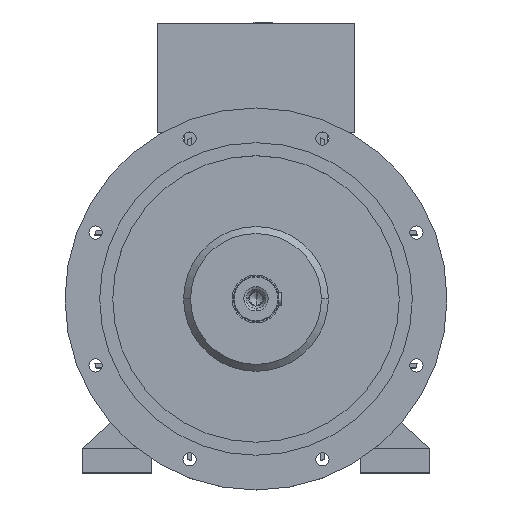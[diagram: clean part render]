
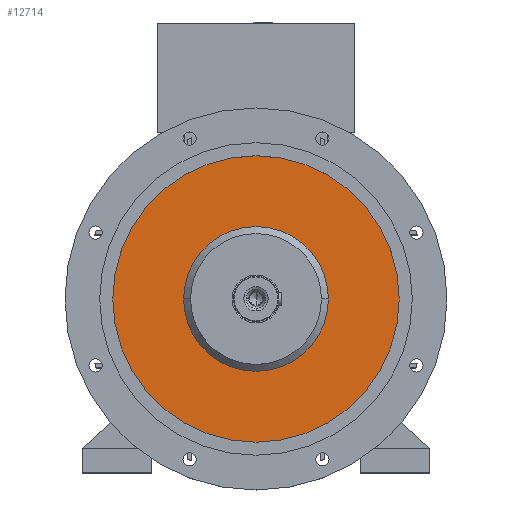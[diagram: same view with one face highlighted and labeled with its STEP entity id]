
A CAD part, top view. The second image highlights one B-rep face of the part: STEP entity #12714.
In plain terms, the highlighted planar face has unit normal (0, 0, 1).
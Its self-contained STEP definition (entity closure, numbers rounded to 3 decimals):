
#844 = CARTESIAN_POINT ( 'NONE',  ( 206.25, 0., 330.5 ) ) ;
#1526 = CARTESIAN_POINT ( 'NONE',  ( 0., 206.25, 330.5 ) ) ;
#2258 = VERTEX_POINT ( 'NONE', #9600 ) ;
#3764 = EDGE_CURVE ( 'NONE', #7970, #3894, #8996, .T. ) ;
#3894 = VERTEX_POINT ( 'NONE', #26335 ) ;
#4556 = EDGE_CURVE ( 'NONE', #2258, #22303, #8298, .T. ) ;
#4691 = AXIS2_PLACEMENT_3D ( 'NONE', #22615, #20337, #26622 ) ;
#6177 = EDGE_LOOP ( 'NONE', ( #11340, #23933 ) ) ;
#6793 = CARTESIAN_POINT ( 'NONE',  ( -104.2, 0., 330.5 ) ) ;
#7970 = VERTEX_POINT ( 'NONE', #844 ) ;
#8048 = DIRECTION ( 'NONE',  ( -1., 0., 0. ) ) ;
#8298 = CIRCLE ( 'NONE', #12578, 104.2 ) ;
#8996 = CIRCLE ( 'NONE', #24302, 206.25 ) ;
#9249 = ORIENTED_EDGE ( 'NONE', *, *, #4556, .T. ) ;
#9600 = CARTESIAN_POINT ( 'NONE',  ( 104.2, 0., 330.5 ) ) ;
#9767 = AXIS2_PLACEMENT_3D ( 'NONE', #1526, #15662, #16015 ) ;
#9901 = PLANE ( 'NONE',  #9767 ) ;
#10052 = FACE_BOUND ( 'NONE', #15062, .T. ) ;
#10099 = CARTESIAN_POINT ( 'NONE',  ( 0., 0., 330.5 ) ) ;
#11337 = DIRECTION ( 'NONE',  ( -1., 0., 0. ) ) ;
#11340 = ORIENTED_EDGE ( 'NONE', *, *, #22032, .T. ) ;
#11866 = CIRCLE ( 'NONE', #4691, 104.2 ) ;
#12578 = AXIS2_PLACEMENT_3D ( 'NONE', #10099, #18202, #18291 ) ;
#12714 = ADVANCED_FACE ( 'NONE', ( #25179, #10052 ), #9901, .T. ) ;
#14149 = DIRECTION ( 'NONE',  ( 0., 0., 1. ) ) ;
#14248 = AXIS2_PLACEMENT_3D ( 'NONE', #16146, #14149, #8048 ) ;
#14816 = EDGE_CURVE ( 'NONE', #22303, #2258, #11866, .T. ) ;
#15062 = EDGE_LOOP ( 'NONE', ( #16459, #9249 ) ) ;
#15365 = CARTESIAN_POINT ( 'NONE',  ( 0., 0., 330.5 ) ) ;
#15662 = DIRECTION ( 'NONE',  ( 0., 0., 1. ) ) ;
#16015 = DIRECTION ( 'NONE',  ( 1., 0., 0. ) ) ;
#16146 = CARTESIAN_POINT ( 'NONE',  ( 0., 0., 330.5 ) ) ;
#16459 = ORIENTED_EDGE ( 'NONE', *, *, #14816, .T. ) ;
#18202 = DIRECTION ( 'NONE',  ( 0., 0., -1. ) ) ;
#18291 = DIRECTION ( 'NONE',  ( -1., 0., 0. ) ) ;
#19792 = DIRECTION ( 'NONE',  ( 0., 0., 1. ) ) ;
#20337 = DIRECTION ( 'NONE',  ( 0., 0., -1. ) ) ;
#21517 = CIRCLE ( 'NONE', #14248, 206.25 ) ;
#22032 = EDGE_CURVE ( 'NONE', #3894, #7970, #21517, .T. ) ;
#22303 = VERTEX_POINT ( 'NONE', #6793 ) ;
#22615 = CARTESIAN_POINT ( 'NONE',  ( 0., 0., 330.5 ) ) ;
#23933 = ORIENTED_EDGE ( 'NONE', *, *, #3764, .T. ) ;
#24302 = AXIS2_PLACEMENT_3D ( 'NONE', #15365, #19792, #11337 ) ;
#25179 = FACE_OUTER_BOUND ( 'NONE', #6177, .T. ) ;
#26335 = CARTESIAN_POINT ( 'NONE',  ( -206.25, 0., 330.5 ) ) ;
#26622 = DIRECTION ( 'NONE',  ( -1., 0., 0. ) ) ;
